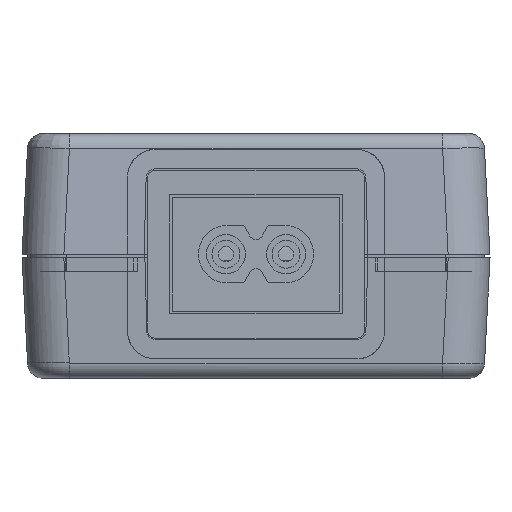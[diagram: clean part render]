
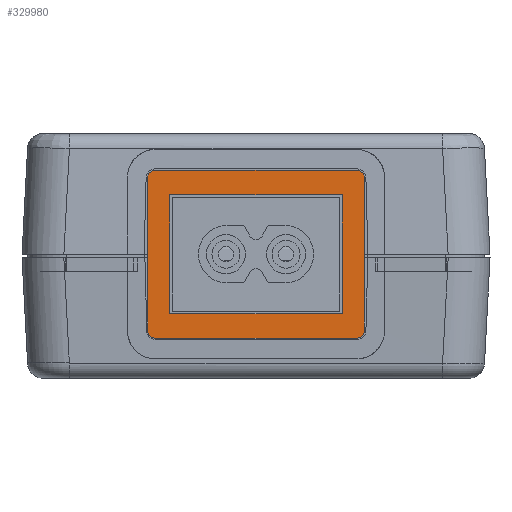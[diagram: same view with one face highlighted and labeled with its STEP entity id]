
A CAD part, left-side view. The second image highlights one B-rep face of the part: STEP entity #329980.
In plain terms, the highlighted planar face has unit normal (-1, 0, 0) as drawn and (0, 1, 0) by its records, which use the part's own axes.
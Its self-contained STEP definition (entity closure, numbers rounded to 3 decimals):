
#327620=CARTESIAN_POINT('',(-15.5,3.4,11.));
#327630=VERTEX_POINT('',#327620);
#327660=CARTESIAN_POINT('',(-14.5,3.4,11.));
#327670=DIRECTION('',(0.,1.,0.));
#327680=DIRECTION('',(-1.,0.,0.));
#327690=AXIS2_PLACEMENT_3D('',#327660,#327670,#327680);
#327700=CIRCLE('',#327690,1.);
#327710=CARTESIAN_POINT('',(-14.5,3.4,12.));
#327720=VERTEX_POINT('',#327710);
#327730=EDGE_CURVE('',#327630,#327720,#327700,.T.);
#327950=CARTESIAN_POINT('',(-15.5,3.4,-11.));
#327960=VERTEX_POINT('',#327950);
#327990=CARTESIAN_POINT('',(-15.5,3.4,-11.));
#328000=DIRECTION('',(0.,0.,1.));
#328010=VECTOR('',#328000,1.);
#328020=LINE('',#327990,#328010);
#328030=EDGE_CURVE('',#327960,#327630,#328020,.T.);
#328180=CARTESIAN_POINT('',(-14.5,3.4,-12.));
#328190=VERTEX_POINT('',#328180);
#328220=CARTESIAN_POINT('',(-14.5,3.4,-11.));
#328230=DIRECTION('',(0.,1.,0.));
#328240=DIRECTION('',(0.,0.,-1.));
#328250=AXIS2_PLACEMENT_3D('',#328220,#328230,#328240);
#328260=CIRCLE('',#328250,1.);
#328270=EDGE_CURVE('',#328190,#327960,#328260,.T.);
#328440=CARTESIAN_POINT('',(14.5,3.4,-12.));
#328450=VERTEX_POINT('',#328440);
#328480=CARTESIAN_POINT('',(14.5,3.4,-12.));
#328490=DIRECTION('',(-1.,0.,0.));
#328500=VECTOR('',#328490,1.);
#328510=LINE('',#328480,#328500);
#328520=EDGE_CURVE('',#328450,#328190,#328510,.T.);
#328670=CARTESIAN_POINT('',(15.5,3.4,-11.));
#328680=VERTEX_POINT('',#328670);
#328710=CARTESIAN_POINT('',(14.5,3.4,-11.));
#328720=DIRECTION('',(0.,1.,0.));
#328730=DIRECTION('',(1.,0.,0.));
#328740=AXIS2_PLACEMENT_3D('',#328710,#328720,#328730);
#328750=CIRCLE('',#328740,1.);
#328760=EDGE_CURVE('',#328680,#328450,#328750,.T.);
#328930=CARTESIAN_POINT('',(15.5,3.4,11.));
#328940=VERTEX_POINT('',#328930);
#328970=CARTESIAN_POINT('',(15.5,3.4,11.));
#328980=DIRECTION('',(0.,0.,-1.));
#328990=VECTOR('',#328980,1.);
#329000=LINE('',#328970,#328990);
#329010=EDGE_CURVE('',#328940,#328680,#329000,.T.);
#329160=CARTESIAN_POINT('',(14.5,3.4,12.));
#329170=VERTEX_POINT('',#329160);
#329200=CARTESIAN_POINT('',(14.5,3.4,11.));
#329210=DIRECTION('',(0.,1.,0.));
#329220=DIRECTION('',(0.,0.,1.));
#329230=AXIS2_PLACEMENT_3D('',#329200,#329210,#329220);
#329240=CIRCLE('',#329230,1.);
#329250=EDGE_CURVE('',#329170,#328940,#329240,.T.);
#329370=CARTESIAN_POINT('',(-14.5,3.4,12.));
#329380=DIRECTION('',(1.,0.,0.));
#329390=VECTOR('',#329380,1.);
#329400=LINE('',#329370,#329390);
#329410=EDGE_CURVE('',#327720,#329170,#329400,.T.);
#329490=CARTESIAN_POINT('',(0.,3.4,0.));
#329500=DIRECTION('',(-0.,1.,0.));
#329510=DIRECTION('',(1.,0.,0.));
#329520=AXIS2_PLACEMENT_3D('',#329490,#329500,#329510);
#329530=PLANE('',#329520);
#329540=ORIENTED_EDGE('',*,*,#328030,.T.);
#329550=ORIENTED_EDGE('',*,*,#328270,.T.);
#329560=ORIENTED_EDGE('',*,*,#328520,.T.);
#329570=ORIENTED_EDGE('',*,*,#328760,.T.);
#329580=ORIENTED_EDGE('',*,*,#329010,.T.);
#329590=ORIENTED_EDGE('',*,*,#329250,.T.);
#329600=ORIENTED_EDGE('',*,*,#329410,.T.);
#329610=ORIENTED_EDGE('',*,*,#327730,.T.);
#329620=EDGE_LOOP('',(#329610,#329600,#329590,#329580,#329570,#329560,
#329550,#329540));
#329630=FACE_OUTER_BOUND('',#329620,.T.);
#329640=CARTESIAN_POINT('',(-12.35,3.4,8.5));
#329650=DIRECTION('',(1.,0.,0.));
#329660=VECTOR('',#329650,1.);
#329670=LINE('',#329640,#329660);
#329680=CARTESIAN_POINT('',(-12.35,3.4,8.5));
#329690=VERTEX_POINT('',#329680);
#329700=CARTESIAN_POINT('',(12.35,3.4,8.5));
#329710=VERTEX_POINT('',#329700);
#329720=EDGE_CURVE('',#329690,#329710,#329670,.T.);
#329730=ORIENTED_EDGE('',*,*,#329720,.F.);
#329740=CARTESIAN_POINT('',(12.35,3.4,8.5));
#329750=DIRECTION('',(0.,0.,-1.));
#329760=VECTOR('',#329750,1.);
#329770=LINE('',#329740,#329760);
#329780=CARTESIAN_POINT('',(12.35,3.4,-8.5));
#329790=VERTEX_POINT('',#329780);
#329800=EDGE_CURVE('',#329710,#329790,#329770,.T.);
#329810=ORIENTED_EDGE('',*,*,#329800,.F.);
#329820=CARTESIAN_POINT('',(12.35,3.4,-8.5));
#329830=DIRECTION('',(-1.,0.,0.));
#329840=VECTOR('',#329830,1.);
#329850=LINE('',#329820,#329840);
#329860=CARTESIAN_POINT('',(-12.35,3.4,-8.5));
#329870=VERTEX_POINT('',#329860);
#329880=EDGE_CURVE('',#329790,#329870,#329850,.T.);
#329890=ORIENTED_EDGE('',*,*,#329880,.F.);
#329900=CARTESIAN_POINT('',(-12.35,3.4,-8.5));
#329910=DIRECTION('',(0.,0.,1.));
#329920=VECTOR('',#329910,1.);
#329930=LINE('',#329900,#329920);
#329940=EDGE_CURVE('',#329870,#329690,#329930,.T.);
#329950=ORIENTED_EDGE('',*,*,#329940,.F.);
#329960=EDGE_LOOP('',(#329950,#329890,#329810,#329730));
#329970=FACE_BOUND('',#329960,.T.);
#329980=ADVANCED_FACE('',(#329630,#329970),#329530,.T.);
